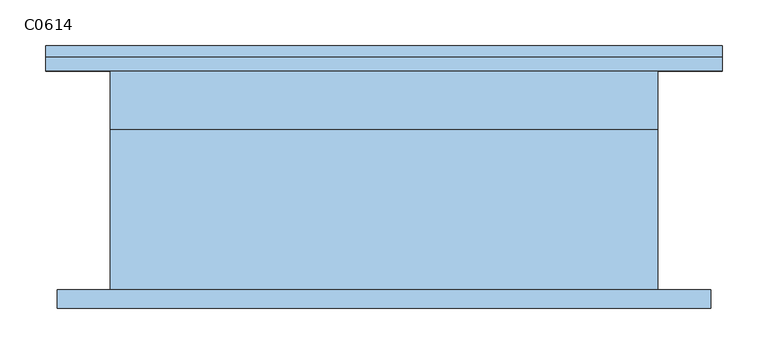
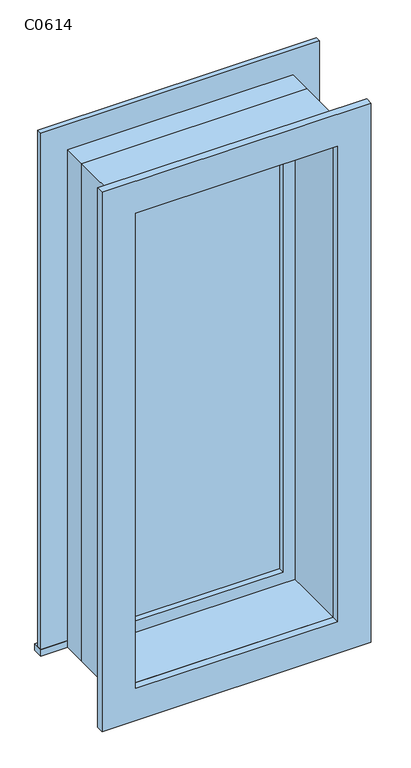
"""IFC4 building model written with IfcOpenShell, lengths in millimetres: window geometry, 单扇平开窗1 - 带贴面 : C0614."""

from ifc_helpers import new_model, si_unit, frame, origin, place, context, project, spatial, polyline, outline, extrude, source, transform, mapped, element, save


def c0614_d0b92543(model_context):
    return source(origin(), model_context, "Body", "SweptSolid", [
        extrude(outline(polyline([(236.5, 71.425), (-236.5, 71.425), (-236.5, 84.125), (236.5, 84.125), (236.5, 71.425)])), frame((0.0, 0.0, 963.5), z_axis=(0.0, 0.0, 1.0), x_axis=(1.0, 0.0, 0.0)), (0.0, 0.0, 1.0), 1273.0),
        extrude(outline(polyline([(2280.95, -280.95), (919.05, -280.95), (919.05, 280.95), (2280.95, 280.95), (2280.95, -280.95)]), holes=[polyline([(2236.5, -236.5), (2236.5, 236.5), (963.5, 236.5), (963.5, -236.5), (2236.5, -236.5)])]), frame((0.0, 55.55, 0.0), z_axis=(0.0, 1.0, 0.0), x_axis=(0.0, 0.0, 1.0)), (0.0, 0.0, 1.0), 44.45),
        extrude(outline(polyline([(2300.0, -300.0), (900.0, -300.0), (900.0, 300.0), (2300.0, 300.0), (2300.0, -300.0)]), holes=[polyline([(2268.25, -268.25), (2268.25, 268.25), (931.75, 268.25), (931.75, -268.25), (2268.25, -268.25)])]), frame((0.0, -120.0, 0.0), z_axis=(0.0, 1.0, 0.0), x_axis=(0.0, 0.0, 1.0)), (0.0, 0.0, 1.0), 175.55),
        extrude(outline(polyline([(2300.0, 300.0), (2300.0, -300.0), (900.0, -300.0), (900.0, 300.0), (2300.0, 300.0)]), holes=[polyline([(2280.95, 280.95), (919.05, 280.95), (919.05, -280.95), (2280.95, -280.95), (2280.95, 280.95)])]), frame((0.0, 55.55, 0.0), z_axis=(0.0, 1.0, 0.0), x_axis=(0.0, 0.0, 1.0)), (0.0, 0.0, 1.0), 64.45),
        extrude(outline(polyline([(-370.95, 147.7), (370.95, 147.7), (370.95, 120.0), (-370.95, 120.0), (-370.95, 147.7)])), frame((0.0, 0.0, 900.0), z_axis=(0.0, 0.0, 1.0), x_axis=(1.0, 0.0, 0.0)), (0.0, 0.0, 1.0), 19.05),
        extrude(outline(polyline([(2280.95, -280.95), (2280.95, 280.95), (919.05, 280.95), (919.05, 370.95), (2370.95, 370.95), (2370.95, -370.95), (919.05, -370.95), (919.05, -280.95), (2280.95, -280.95)])), frame((0.0, 120.0, 0.0), z_axis=(0.0, 1.0, 0.0), x_axis=(0.0, 0.0, 1.0)), (0.0, 0.0, 1.0), 15.0),
        extrude(outline(polyline([(2358.25, 358.25), (2358.25, -358.25), (841.75, -358.25), (841.75, 358.25), (2358.25, 358.25)]), holes=[polyline([(2268.25, 268.25), (931.75, 268.25), (931.75, -268.25), (2268.25, -268.25), (2268.25, 268.25)])]), frame((0.0, -140.0, 0.0), z_axis=(0.0, 1.0, 0.0), x_axis=(0.0, 0.0, 1.0)), (0.0, 0.0, 1.0), 20.0),
    ])


if __name__ == "__main__":
    model = new_model("IFC4")
    model_context = context("Model", 3, world=origin())
    ifc_project = project(units=[si_unit("LENGTHUNIT", "METRE", prefix="MILLI")], contexts=[model_context])
    site = spatial("IfcSite", under=ifc_project)
    building = spatial("IfcBuilding", under=site)
    placement = place(None, origin())
    c0614_shape = c0614_d0b92543(model_context)
    element("IfcWindow", 1, ObjectType="单扇平开窗1 - 带贴面 : C0614", at=placement, inside=building, context=model_context, shape_type="MappedRepresentation", body=[
        mapped(c0614_shape, transform((0.0, 0.0, 0.0), x_axis=(1.0, 0.0, 0.0), y_axis=(0.0, 1.0, 0.0), z_axis=(0.0, 0.0, 1.0))),
    ])
    save(model, "model.ifc")
